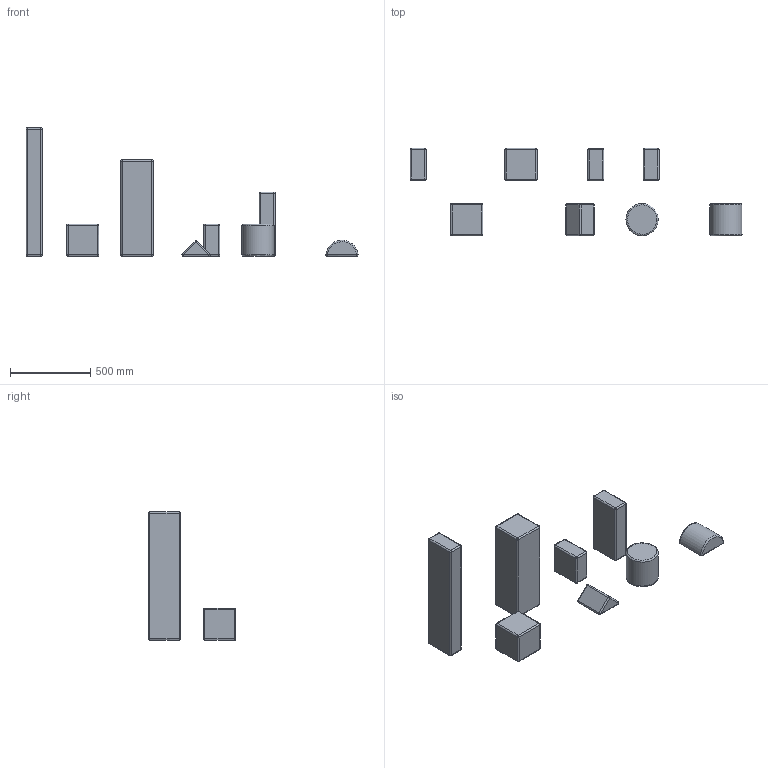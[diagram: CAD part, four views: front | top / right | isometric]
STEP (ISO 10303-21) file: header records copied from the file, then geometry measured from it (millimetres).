
FILE_DESCRIPTION(/* description */ (''),/* implementation_level */ '2;1');
FILE_NAME(/* name */ 'kinoshita_baobabland_k211',/* time_stamp */ '2026-07-24T16:41:38+09:00',/* author */ (''),/* organization */ (''),/* preprocessor_version */ 'ST-DEVELOPER v16.5',/* originating_system */ '',/* authorisation */ '');
FILE_SCHEMA (('AUTOMOTIVE_DESIGN'));
Length unit declared in the file: millimetre
Products named in the file (1): Document
Bounding box: 2062.93 x 542 x 800 mm (x, y, z)
Volume: 71083991.7 mm3; surface area: 2114614 mm2
Topology: 8 solids, 8 shells, 167 faces, 357 edges, 156 vertices
Faces by surface type: bspline 127, plane 40
Entity records: 5241 total; most frequent: CARTESIAN_POINT 3267, ORIENTED_EDGE 614, EDGE_CURVE 307, ADVANCED_FACE 167, FACE_OUTER_BOUND 167, EDGE_LOOP 167, B_SPLINE_CURVE_WITH_KNOTS 161, VERTEX_POINT 156
